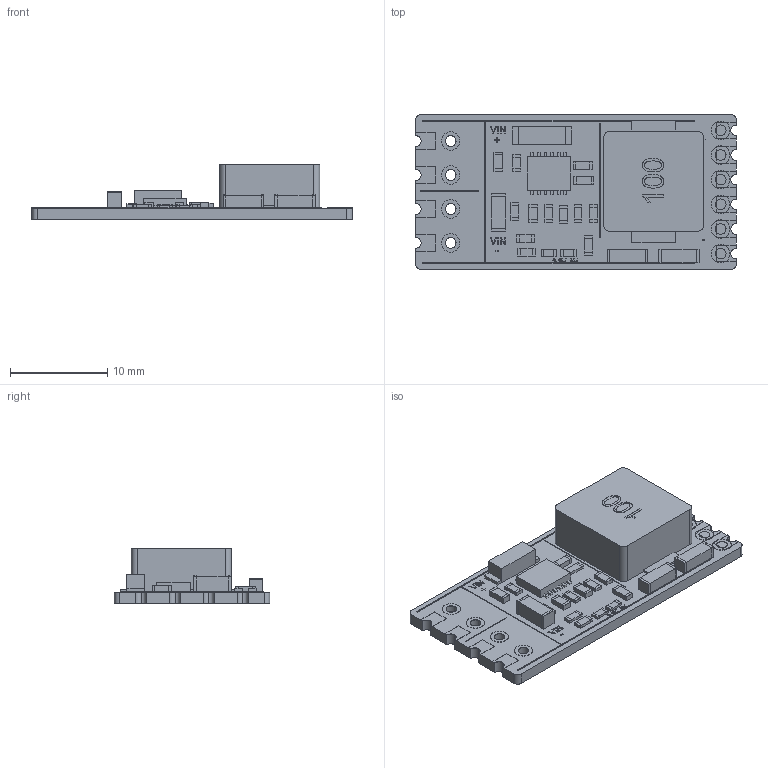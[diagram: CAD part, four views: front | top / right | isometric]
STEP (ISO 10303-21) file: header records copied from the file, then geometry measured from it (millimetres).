
FILE_DESCRIPTION(('Open CASCADE Model'),'2;1');
FILE_NAME('Open CASCADE Shape Model','2026-10-29T12:57:22',('Author'),( 'Open CASCADE'),'Open CASCADE STEP processor 7.9','Open CASCADE 7.9' ,'Unknown');
FILE_SCHEMA(('AUTOMOTIVE_DESIGN { 1 0 10303 214 1 1 1 1 }'));
Length unit declared in the file: millimetre
Products named in the file (113): Waveshare_DC5_36_5V_PHOTO_BASED_VISUAL; black_module_PCB_33x16_visual_thickness; cosmetic_input_contact_1_1; cosmetic_input_contact_1_2; cosmetic_input_contact_2_1; cosmetic_input_contact_2_2; cosmetic_input_contact_3_1; cosmetic_input_contact_3_2; cosmetic_input_contact_4_1; cosmetic_input_contact_4_2; cosmetic_output_contact_1; cosmetic_output_contact_2; cosmetic_output_contact_3; cosmetic_output_contact_4; cosmetic_output_contact_5; cosmetic_output_contact_6; grey_shielded_inductor; inductor_terminal_-4.6; inductor_terminal_6.75; inductor_100_marking_1; inductor_100_marking_2; inductor_100_marking_3; input_diode_body; diode_terminal_-6.25; diode_terminal_-0.75; controller_package_visual; controller_lead_-1_0; controller_lead_-1_1; controller_lead_-1_2; controller_lead_-1_3; controller_lead_-1_4; controller_lead_-1_5; controller_lead_1_0; controller_lead_1_1; controller_lead_1_2; controller_lead_1_3; controller_lead_1_4; controller_lead_1_5; input_ceramic_body; input_ceramic_cap_-1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
Assembly tree (112 placements, depth 2):
  Waveshare_DC5_36_5V_PHOTO_BASED_VISUAL
    black_module_PCB_33x16_visual_thickness
    cosmetic_input_contact_1_1
    cosmetic_input_contact_1_2
    cosmetic_input_contact_2_1
    cosmetic_input_contact_2_2
    cosmetic_input_contact_3_1
    cosmetic_input_contact_3_2
    cosmetic_input_contact_4_1
    cosmetic_input_contact_4_2
    cosmetic_output_contact_1
    cosmetic_output_contact_2
    cosmetic_output_contact_3
    cosmetic_output_contact_4
    cosmetic_output_contact_5
    cosmetic_output_contact_6
    grey_shielded_inductor
    inductor_terminal_-4.6
    inductor_terminal_6.75
    inductor_100_marking_1
    inductor_100_marking_2
    inductor_100_marking_3
    input_diode_body
    diode_terminal_-6.25
    diode_terminal_-0.75
    controller_package_visual
    controller_lead_-1_0
    controller_lead_-1_1
    controller_lead_-1_2
    controller_lead_-1_3
    controller_lead_-1_4
    controller_lead_-1_5
    controller_lead_1_0
    controller_lead_1_1
    controller_lead_1_2
    controller_lead_1_3
    controller_lead_1_4
    controller_lead_1_5
    input_ceramic_body
    input_ceramic_cap_-1
    input_ceramic_cap_1
    input_capacitor_body
    input_capacitor_cap_-1
    input_capacitor_cap_1
    feedback_R_body
    feedback_R_cap_-1
    feedback_R_cap_1
    small_ceramic_body
    small_ceramic_cap_-1
    small_ceramic_cap_1
    small_R_body
    small_R_cap_-1
    small_R_cap_1
    low_R1_body
    low_R1_cap_-1
    low_R1_cap_1
    low_C1_body
    low_C1_cap_-1
    low_C1_cap_1
    low_R2_body
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Bounding box: 33 x 16 x 5.7 mm (x, y, z)
Volume: 1162.5 mm3; surface area: 2063.7 mm2
Topology: 112 solids, 112 shells, 933 faces, 2115 edges, 1394 vertices
Faces by surface type: plane 746, extrusion 121, cylinder 66
Full cylindrical faces by diameter (mm): 1.1 x14, 1.9 x4
Entity records: 56102 total; most frequent: CARTESIAN_POINT 10171, DIRECTION 7876, VECTOR 5446, LINE 5325, ORIENTED_EDGE 4230, PCURVE 4230, DEFINITIONAL_REPRESENTATION 4230, EDGE_CURVE 2115
